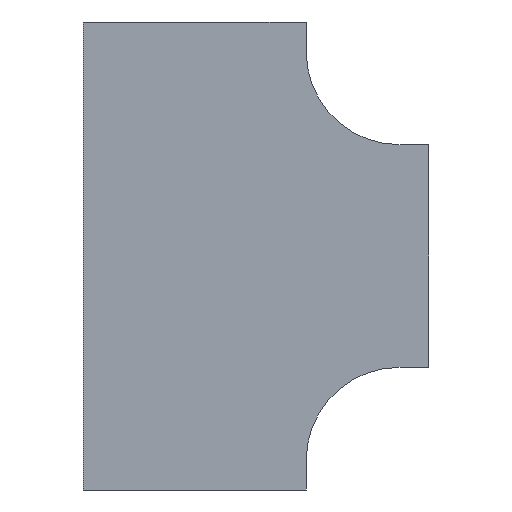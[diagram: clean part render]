
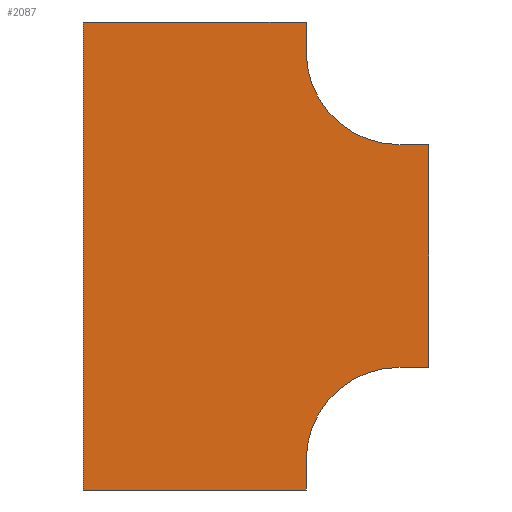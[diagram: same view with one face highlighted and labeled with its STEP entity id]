
A CAD part, front view. The second image highlights one B-rep face of the part: STEP entity #2087.
In plain terms, the highlighted planar face has unit normal (0, -1, 0).
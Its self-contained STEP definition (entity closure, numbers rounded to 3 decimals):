
#22 = LINE ( 'NONE', #1246, #1108 ) ;
#41 = CIRCLE ( 'NONE', #957, 125. ) ;
#86 = CARTESIAN_POINT ( 'NONE',  ( -125., 0., -550. ) ) ;
#168 = CARTESIAN_POINT ( 'NONE',  ( -425., 0., 40. ) ) ;
#171 = EDGE_CURVE ( 'NONE', #1154, #1390, #41, .T. ) ;
#179 = VERTEX_POINT ( 'NONE', #247 ) ;
#209 = DIRECTION ( 'NONE',  ( 1., 0., 0. ) ) ;
#240 = DIRECTION ( 'NONE',  ( 0., 0., 1. ) ) ;
#247 = CARTESIAN_POINT ( 'NONE',  ( -125., 0., 40. ) ) ;
#259 = ORIENTED_EDGE ( 'NONE', *, *, #2250, .F. ) ;
#265 = AXIS2_PLACEMENT_3D ( 'NONE', #1255, #663, #1560 ) ;
#275 = DIRECTION ( 'NONE',  ( 0., 0., -1. ) ) ;
#364 = LINE ( 'NONE', #900, #1136 ) ;
#399 = CARTESIAN_POINT ( 'NONE',  ( 0., 0., -125. ) ) ;
#434 = PLANE ( 'NONE',  #1576 ) ;
#529 = EDGE_CURVE ( 'NONE', #1475, #1126, #949, .T. ) ;
#558 = VECTOR ( 'NONE', #1732, 1000. ) ;
#597 = VECTOR ( 'NONE', #240, 1000. ) ;
#663 = DIRECTION ( 'NONE',  ( 0., -1., 0. ) ) ;
#681 = CARTESIAN_POINT ( 'NONE',  ( 0., 0., -425. ) ) ;
#689 = CARTESIAN_POINT ( 'NONE',  ( 40., 0., -425. ) ) ;
#726 = EDGE_LOOP ( 'NONE', ( #1306, #2206, #1445, #2260, #1405, #259, #801, #2052, #1630, #2062 ) ) ;
#735 = DIRECTION ( 'NONE',  ( 0., 0., -1. ) ) ;
#801 = ORIENTED_EDGE ( 'NONE', *, *, #1575, .F. ) ;
#887 = CARTESIAN_POINT ( 'NONE',  ( -425., 0., -590. ) ) ;
#889 = CARTESIAN_POINT ( 'NONE',  ( 0., 0., 0. ) ) ;
#900 = CARTESIAN_POINT ( 'NONE',  ( 40., 0., -125. ) ) ;
#945 = LINE ( 'NONE', #1654, #2010 ) ;
#949 = LINE ( 'NONE', #1114, #1887 ) ;
#957 = AXIS2_PLACEMENT_3D ( 'NONE', #889, #2332, #1609 ) ;
#961 = VERTEX_POINT ( 'NONE', #86 ) ;
#1009 = LINE ( 'NONE', #1719, #558 ) ;
#1031 = EDGE_CURVE ( 'NONE', #1126, #1954, #2097, .T. ) ;
#1080 = VERTEX_POINT ( 'NONE', #1230 ) ;
#1096 = LINE ( 'NONE', #2337, #1291 ) ;
#1108 = VECTOR ( 'NONE', #2173, 1000. ) ;
#1114 = CARTESIAN_POINT ( 'NONE',  ( -425., 0., -590. ) ) ;
#1126 = VERTEX_POINT ( 'NONE', #887 ) ;
#1136 = VECTOR ( 'NONE', #735, 1000. ) ;
#1148 = CARTESIAN_POINT ( 'NONE',  ( -425., 0., -590. ) ) ;
#1151 = EDGE_CURVE ( 'NONE', #2154, #961, #1177, .T. ) ;
#1154 = VERTEX_POINT ( 'NONE', #2344 ) ;
#1168 = CARTESIAN_POINT ( 'NONE',  ( 0., 0., 0. ) ) ;
#1177 = CIRCLE ( 'NONE', #265, 125. ) ;
#1189 = LINE ( 'NONE', #1324, #2268 ) ;
#1222 = EDGE_CURVE ( 'NONE', #1954, #179, #945, .T. ) ;
#1230 = CARTESIAN_POINT ( 'NONE',  ( 40., 0., -125. ) ) ;
#1246 = CARTESIAN_POINT ( 'NONE',  ( 0., 0., -125. ) ) ;
#1255 = CARTESIAN_POINT ( 'NONE',  ( 0., 0., -550. ) ) ;
#1291 = VECTOR ( 'NONE', #1784, 1000. ) ;
#1306 = ORIENTED_EDGE ( 'NONE', *, *, #1222, .F. ) ;
#1308 = DIRECTION ( 'NONE',  ( -1., 0., 0. ) ) ;
#1324 = CARTESIAN_POINT ( 'NONE',  ( -125., 0., -590. ) ) ;
#1390 = VERTEX_POINT ( 'NONE', #399 ) ;
#1405 = ORIENTED_EDGE ( 'NONE', *, *, #1151, .F. ) ;
#1445 = ORIENTED_EDGE ( 'NONE', *, *, #529, .F. ) ;
#1475 = VERTEX_POINT ( 'NONE', #1921 ) ;
#1560 = DIRECTION ( 'NONE',  ( 0., 0., 1. ) ) ;
#1575 = EDGE_CURVE ( 'NONE', #1080, #1882, #364, .T. ) ;
#1576 = AXIS2_PLACEMENT_3D ( 'NONE', #1168, #1937, #1585 ) ;
#1585 = DIRECTION ( 'NONE',  ( 0., 0., -1. ) ) ;
#1595 = EDGE_CURVE ( 'NONE', #1390, #1080, #22, .T. ) ;
#1609 = DIRECTION ( 'NONE',  ( 0., 0., -1. ) ) ;
#1630 = ORIENTED_EDGE ( 'NONE', *, *, #171, .F. ) ;
#1654 = CARTESIAN_POINT ( 'NONE',  ( -425., 0., 40. ) ) ;
#1709 = EDGE_CURVE ( 'NONE', #961, #1475, #1189, .T. ) ;
#1719 = CARTESIAN_POINT ( 'NONE',  ( -125., 0., 40. ) ) ;
#1732 = DIRECTION ( 'NONE',  ( 0., 0., -1. ) ) ;
#1784 = DIRECTION ( 'NONE',  ( -1., 0., 0. ) ) ;
#1882 = VERTEX_POINT ( 'NONE', #689 ) ;
#1887 = VECTOR ( 'NONE', #1308, 1000. ) ;
#1921 = CARTESIAN_POINT ( 'NONE',  ( -125., 0., -590. ) ) ;
#1937 = DIRECTION ( 'NONE',  ( 0., -1., 0. ) ) ;
#1954 = VERTEX_POINT ( 'NONE', #168 ) ;
#2010 = VECTOR ( 'NONE', #209, 1000. ) ;
#2052 = ORIENTED_EDGE ( 'NONE', *, *, #1595, .F. ) ;
#2062 = ORIENTED_EDGE ( 'NONE', *, *, #2091, .F. ) ;
#2087 = ADVANCED_FACE ( 'NONE', ( #2243 ), #434, .T. ) ;
#2091 = EDGE_CURVE ( 'NONE', #179, #1154, #1009, .T. ) ;
#2097 = LINE ( 'NONE', #1148, #597 ) ;
#2154 = VERTEX_POINT ( 'NONE', #681 ) ;
#2173 = DIRECTION ( 'NONE',  ( 1., 0., 0. ) ) ;
#2206 = ORIENTED_EDGE ( 'NONE', *, *, #1031, .F. ) ;
#2243 = FACE_OUTER_BOUND ( 'NONE', #726, .T. ) ;
#2250 = EDGE_CURVE ( 'NONE', #1882, #2154, #1096, .T. ) ;
#2260 = ORIENTED_EDGE ( 'NONE', *, *, #1709, .F. ) ;
#2268 = VECTOR ( 'NONE', #275, 1000. ) ;
#2332 = DIRECTION ( 'NONE',  ( 0., -1., 0. ) ) ;
#2337 = CARTESIAN_POINT ( 'NONE',  ( 0., 0., -425. ) ) ;
#2344 = CARTESIAN_POINT ( 'NONE',  ( -125., 0., 0. ) ) ;
